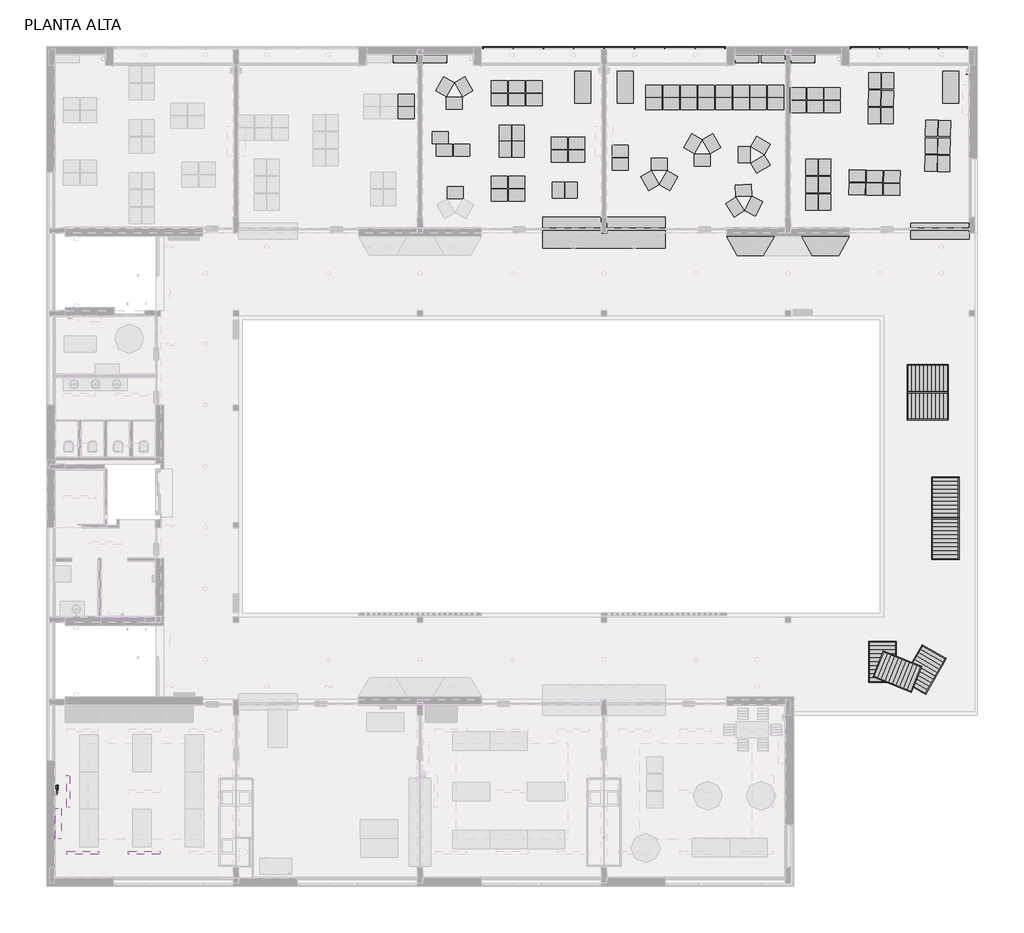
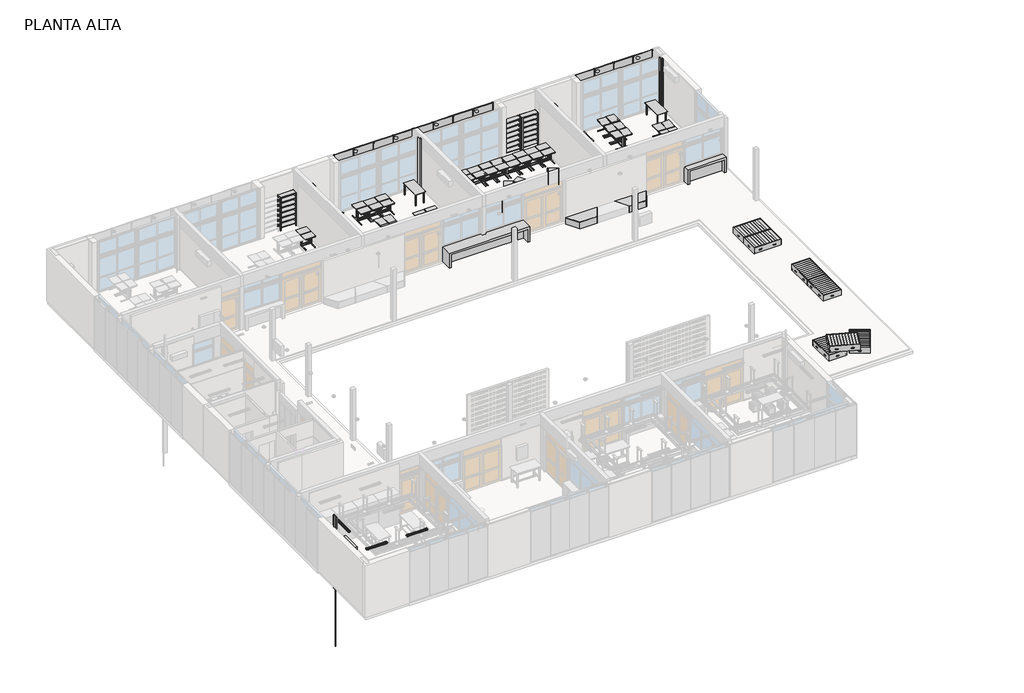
# One storey, part 11 of 14: 117 furniture elements, 7 pipe segments, 3 light fixtures, 3 pipe fittings, 1 proxy.
"""IFC4 building model written with IfcOpenShell, lengths in millimetres."""

from ifc_helpers import new_model, si_unit, point, frame, frame_2d, origin, place, context, project, spatial, circle_curve, trimmed, segment, composite_curve, outline, extrude, transform, mapped, element, save
from components import aa_unidad_interior_12_18_24_v2_24000btu_6bd6a99b, furniture_fee86474, furniture_102ea485, furniture_b328b4e4, furniture_937832ed, furniture_bc23b5bf, furniture_aca7c88c, furniture_7bc934b7, furniture_ed805c17, furniture_2b1f3197, furniture_b6be04e7, furniture_776c19b2, furniture_6d9eaf94, furniture_388dc08d, furniture_1ca492f6, l251_l251_78c3c87a, pipe_fitting_72b35c3b, m_codo_pvc_serie_40_57727813

model = new_model("IFC4")

# Units and contexts
model_context = context("Model", 3, world=origin())
ifc_project = project(units=[si_unit("LENGTHUNIT", "METRE", prefix="MILLI")], contexts=[model_context])

# Site, building, storey
site = spatial("IfcSite", under=ifc_project)
building = spatial("IfcBuilding", under=site)
storey = spatial("IfcBuildingStorey", under=building, Name="PLANTA ALTA", Elevation=3310.0)

# Proxy
placement = place(None, origin())
aa_unidad_interior_12_18_24_v2_24000btu_shape = aa_unidad_interior_12_18_24_v2_24000btu_6bd6a99b(model_context)
element("IfcBuildingElementProxy", 1, Name="AA Unidad interior 12-18-24 V2 : 24000BTU", ObjectType="AA Unidad interior 12-18-24 V2 : 24000BTU", at=placement, inside=storey, context=model_context, shape_type="MappedRepresentation", body=[
    mapped(aa_unidad_interior_12_18_24_v2_24000btu_shape, transform((3403.7173693, 2568.5637368, 6110.0), x_axis=(0.0, 1.0, 0.0), y_axis=(0.0, 0.0, 1.0), z_axis=(1.0, 0.0, 0.0))),
])

# Furniture
furniture_shape = furniture_fee86474(model_context)
element("IfcFurniture", 2, ObjectType="2.6 Mesa cuadrada 60x120 : 2.6 Mesa cuadrada 60x120", at=placement, inside=storey, context=model_context, shape_type="MappedRepresentation", body=[
    mapped(furniture_shape, transform((23188.6146227, 30211.8821589, 3310.0), x_axis=(0.0, -1.0, 0.0), y_axis=(1.0, 0.0, 0.0), z_axis=(0.0, 0.0, 1.0))),
])
element("IfcFurniture", 3, ObjectType="2.6 Mesa cuadrada 60x120 : 2.6 Mesa cuadrada 60x120", at=placement, inside=storey, context=model_context, shape_type="MappedRepresentation", body=[
    mapped(furniture_shape, transform((36988.6146227, 30211.8821589, 3310.0), x_axis=(0.0, -1.0, 0.0), y_axis=(1.0, 0.0, 0.0), z_axis=(0.0, 0.0, 1.0))),
])
furniture_2_shape = furniture_102ea485(model_context)
element("IfcFurniture", 4, ObjectType="4.6 Set de tarimas : 4.6 Set de tarimas", at=placement, inside=storey, context=model_context, shape_type="MappedRepresentation", body=[
    mapped(furniture_2_shape, transform((34440.0119752, 8631.0132244, 3310.0), x_axis=(1.0, 0.0, 0.0), y_axis=(0.0, 1.0, 0.0), z_axis=(0.0, 0.0, 1.0))),
])
element("IfcFurniture", 5, ObjectType="4.6 Set de tarimas : 4.6 Set de tarimas", at=placement, inside=storey, context=model_context, shape_type="MappedRepresentation", body=[
    mapped(furniture_2_shape, transform((35988.1937079, 8347.0837234, 3310.0), x_axis=(0.8660254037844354, -0.5000000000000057, 0.0), y_axis=(0.5000000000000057, 0.8660254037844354, 0.0), z_axis=(0.0, 0.0, 1.0))),
])
element("IfcFurniture", 6, ObjectType="4.6 Set de tarimas : 4.6 Set de tarimas", at=placement, inside=storey, context=model_context, shape_type="MappedRepresentation", body=[
    mapped(furniture_2_shape, transform((34996.9134234, 8269.6800312, 3660.0), x_axis=(0.37460659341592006, 0.9271838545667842, 0.0), y_axis=(-0.9271838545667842, 0.37460659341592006, 0.0), z_axis=(0.0, 0.0, 1.0))),
])
element("IfcFurniture", 7, ObjectType="4.6 Set de tarimas : 4.6 Set de tarimas", at=placement, inside=storey, context=model_context, shape_type="MappedRepresentation", body=[
    mapped(furniture_2_shape, transform((36794.2422036, 14805.2304035, 3310.0), x_axis=(1.0, 0.0, 0.0), y_axis=(0.0, 1.0, 0.0), z_axis=(0.0, 0.0, 1.0))),
])
element("IfcFurniture", 8, ObjectType="4.6 Set de tarimas : 4.6 Set de tarimas", at=placement, inside=storey, context=model_context, shape_type="MappedRepresentation", body=[
    mapped(furniture_2_shape, transform((36134.2422036, 19275.2304035, 3310.0), x_axis=(0.0, 1.0, 0.0), y_axis=(-1.0, 0.0, 0.0), z_axis=(0.0, 0.0, 1.0))),
])
element("IfcFurniture", 9, ObjectType="4.6 Set de tarimas : 4.6 Set de tarimas", at=placement, inside=storey, context=model_context, shape_type="MappedRepresentation", body=[
    mapped(furniture_2_shape, transform((36794.2422036, 13255.2304035, 3310.0), x_axis=(1.0, 0.0, 0.0), y_axis=(0.0, 1.0, 0.0), z_axis=(0.0, 0.0, 1.0))),
])
element("IfcFurniture", 10, ObjectType="4.6 Set de tarimas : 4.6 Set de tarimas", at=placement, inside=storey, context=model_context, shape_type="MappedRepresentation", body=[
    mapped(furniture_2_shape, transform((36134.2422036, 18237.5304035, 3310.0), x_axis=(0.0, 1.0, 0.0), y_axis=(-1.0, 0.0, 0.0), z_axis=(0.0, 0.0, 1.0))),
])
furniture_3_shape = furniture_b328b4e4(model_context)
element("IfcFurniture", 11, ObjectType="2.1 Mesa alumno : 2.1 Mesa alumno", at=placement, inside=storey, context=model_context, shape_type="MappedRepresentation", body=[
    mapped(furniture_3_shape, transform((16578.4848501, 29723.0969981, 3310.0), x_axis=(1.0, 0.0, 0.0), y_axis=(0.0, 1.0, 0.0), z_axis=(0.0, 0.0, 1.0))),
])
element("IfcFurniture", 12, ObjectType="2.1 Mesa alumno : 2.1 Mesa alumno", at=placement, inside=storey, context=model_context, shape_type="MappedRepresentation", body=[
    mapped(furniture_3_shape, transform((16578.4838965, 29238.2829284, 3310.0), x_axis=(-0.9999999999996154, 8.770485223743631e-07, 0.0), y_axis=(-8.770485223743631e-07, -0.9999999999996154, 0.0), z_axis=(0.0, 0.0, 1.0))),
])
element("IfcFurniture", 13, ObjectType="2.1 Mesa alumno : 2.1 Mesa alumno", at=placement, inside=storey, context=model_context, shape_type="MappedRepresentation", body=[
    mapped(furniture_3_shape, transform((18729.4443589, 30216.1938579, 3310.0), x_axis=(0.49999999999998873, -0.8660254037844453, 0.0), y_axis=(0.8660254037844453, 0.49999999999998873, 0.0), z_axis=(0.0, 0.0, 1.0))),
])
element("IfcFurniture", 14, ObjectType="2.1 Mesa alumno : 2.1 Mesa alumno", at=placement, inside=storey, context=model_context, shape_type="MappedRepresentation", body=[
    mapped(furniture_3_shape, transform((18031.8113262, 30218.3849675, 3310.0), x_axis=(0.5000000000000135, 0.8660254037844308, 0.0), y_axis=(-0.8660254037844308, 0.5000000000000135, 0.0), z_axis=(0.0, 0.0, 1.0))),
])
element("IfcFurniture", 15, ObjectType="2.1 Mesa alumno : 2.1 Mesa alumno", at=placement, inside=storey, context=model_context, shape_type="MappedRepresentation", body=[
    mapped(furniture_3_shape, transform((18381.5913909, 29608.0763013, 3310.0), x_axis=(-0.9999999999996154, 8.770485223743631e-07, 0.0), y_axis=(-8.770485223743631e-07, -0.9999999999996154, 0.0), z_axis=(0.0, 0.0, 1.0))),
])
element("IfcFurniture", 16, ObjectType="2.1 Mesa alumno : 2.1 Mesa alumno", at=placement, inside=storey, context=model_context, shape_type="MappedRepresentation", body=[
    mapped(furniture_3_shape, transform((18409.1082375, 26250.8944229, 3310.0), x_axis=(1.0, 0.0, 0.0), y_axis=(0.0, 1.0, 0.0), z_axis=(0.0, 0.0, 1.0))),
])
element("IfcFurniture", 17, ObjectType="2.1 Mesa alumno : 2.1 Mesa alumno", at=placement, inside=storey, context=model_context, shape_type="MappedRepresentation", body=[
    mapped(furniture_3_shape, transform((20063.1893816, 30228.3594979, 3310.0), x_axis=(1.0, 0.0, 0.0), y_axis=(0.0, 1.0, 0.0), z_axis=(0.0, 0.0, 1.0))),
])
element("IfcFurniture", 18, ObjectType="2.1 Mesa alumno : 2.1 Mesa alumno", at=placement, inside=storey, context=model_context, shape_type="MappedRepresentation", body=[
    mapped(furniture_3_shape, transform((20717.1336372, 30228.3594979, 3310.0), x_axis=(1.0, 0.0, 0.0), y_axis=(0.0, 1.0, 0.0), z_axis=(0.0, 0.0, 1.0))),
])
element("IfcFurniture", 19, ObjectType="2.1 Mesa alumno : 2.1 Mesa alumno", at=placement, inside=storey, context=model_context, shape_type="MappedRepresentation", body=[
    mapped(furniture_3_shape, transform((20717.1326836, 29743.5454283, 3310.0), x_axis=(-0.9999999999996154, 8.770485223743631e-07, 0.0), y_axis=(-8.770485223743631e-07, -0.9999999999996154, 0.0), z_axis=(0.0, 0.0, 1.0))),
])
element("IfcFurniture", 20, ObjectType="2.1 Mesa alumno : 2.1 Mesa alumno", at=placement, inside=storey, context=model_context, shape_type="MappedRepresentation", body=[
    mapped(furniture_3_shape, transform((20063.1884279, 29743.5454283, 3310.0), x_axis=(-1.0, 0.0, 0.0), y_axis=(0.0, -1.0, 0.0), z_axis=(0.0, 0.0, 1.0))),
])
element("IfcFurniture", 21, ObjectType="2.1 Mesa alumno : 2.1 Mesa alumno", at=placement, inside=storey, context=model_context, shape_type="MappedRepresentation", body=[
    mapped(furniture_3_shape, transform((18651.0092465, 27836.187759, 3310.0), x_axis=(-0.9999999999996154, 8.770485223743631e-07, 0.0), y_axis=(-8.770485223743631e-07, -0.9999999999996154, 0.0), z_axis=(0.0, 0.0, 1.0))),
])
element("IfcFurniture", 22, ObjectType="2.1 Mesa alumno : 2.1 Mesa alumno", at=placement, inside=storey, context=model_context, shape_type="MappedRepresentation", body=[
    mapped(furniture_3_shape, transform((17997.0649908, 27836.187759, 3310.0), x_axis=(-1.0, 0.0, 0.0), y_axis=(0.0, -1.0, 0.0), z_axis=(0.0, 0.0, 1.0))),
])
element("IfcFurniture", 23, ObjectType="2.1 Mesa alumno : 2.1 Mesa alumno", at=placement, inside=storey, context=model_context, shape_type="MappedRepresentation", body=[
    mapped(furniture_3_shape, transform((22312.5797162, 28097.7498325, 3310.0), x_axis=(1.0, 0.0, 0.0), y_axis=(0.0, 1.0, 0.0), z_axis=(0.0, 0.0, 1.0))),
])
element("IfcFurniture", 24, ObjectType="2.1 Mesa alumno : 2.1 Mesa alumno", at=placement, inside=storey, context=model_context, shape_type="MappedRepresentation", body=[
    mapped(furniture_3_shape, transform((22966.5239718, 28097.7498325, 3310.0), x_axis=(1.0, 0.0, 0.0), y_axis=(0.0, 1.0, 0.0), z_axis=(0.0, 0.0, 1.0))),
])
element("IfcFurniture", 25, ObjectType="2.1 Mesa alumno : 2.1 Mesa alumno", at=placement, inside=storey, context=model_context, shape_type="MappedRepresentation", body=[
    mapped(furniture_3_shape, transform((22966.5230182, 27612.9357629, 3310.0), x_axis=(-0.9999999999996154, 8.770485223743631e-07, 0.0), y_axis=(-8.770485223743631e-07, -0.9999999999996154, 0.0), z_axis=(0.0, 0.0, 1.0))),
])
element("IfcFurniture", 26, ObjectType="2.1 Mesa alumno : 2.1 Mesa alumno", at=placement, inside=storey, context=model_context, shape_type="MappedRepresentation", body=[
    mapped(furniture_3_shape, transform((22312.5787625, 27612.9357629, 3310.0), x_axis=(-1.0, 0.0, 0.0), y_axis=(0.0, -1.0, 0.0), z_axis=(0.0, 0.0, 1.0))),
])
element("IfcFurniture", 27, ObjectType="2.1 Mesa alumno : 2.1 Mesa alumno", at=placement, inside=storey, context=model_context, shape_type="MappedRepresentation", body=[
    mapped(furniture_3_shape, transform((26515.0518356, 30060.6599885, 3310.0), x_axis=(1.0, 0.0, 0.0), y_axis=(0.0, 1.0, 0.0), z_axis=(0.0, 0.0, 1.0))),
])
element("IfcFurniture", 28, ObjectType="2.1 Mesa alumno : 2.1 Mesa alumno", at=placement, inside=storey, context=model_context, shape_type="MappedRepresentation", body=[
    mapped(furniture_3_shape, transform((27168.9960913, 30060.6599885, 3310.0), x_axis=(1.0, 0.0, 0.0), y_axis=(0.0, 1.0, 0.0), z_axis=(0.0, 0.0, 1.0))),
])
element("IfcFurniture", 29, ObjectType="2.1 Mesa alumno : 2.1 Mesa alumno", at=placement, inside=storey, context=model_context, shape_type="MappedRepresentation", body=[
    mapped(furniture_3_shape, transform((27168.9951376, 29575.8459189, 3310.0), x_axis=(-0.9999999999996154, 8.770485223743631e-07, 0.0), y_axis=(-8.770485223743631e-07, -0.9999999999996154, 0.0), z_axis=(0.0, 0.0, 1.0))),
])
element("IfcFurniture", 30, ObjectType="2.1 Mesa alumno : 2.1 Mesa alumno", at=placement, inside=storey, context=model_context, shape_type="MappedRepresentation", body=[
    mapped(furniture_3_shape, transform((26515.050882, 29575.8459189, 3310.0), x_axis=(-1.0, 0.0, 0.0), y_axis=(0.0, -1.0, 0.0), z_axis=(0.0, 0.0, 1.0))),
])
element("IfcFurniture", 31, ObjectType="2.1 Mesa alumno : 2.1 Mesa alumno", at=placement, inside=storey, context=model_context, shape_type="MappedRepresentation", body=[
    mapped(furniture_3_shape, transform((27822.9403469, 30060.6599885, 3310.0), x_axis=(1.0, 0.0, 0.0), y_axis=(0.0, 1.0, 0.0), z_axis=(0.0, 0.0, 1.0))),
])
element("IfcFurniture", 32, ObjectType="2.1 Mesa alumno : 2.1 Mesa alumno", at=placement, inside=storey, context=model_context, shape_type="MappedRepresentation", body=[
    mapped(furniture_3_shape, transform((27822.9393933, 29575.8459189, 3310.0), x_axis=(-0.9999999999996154, 8.770485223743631e-07, 0.0), y_axis=(-8.770485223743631e-07, -0.9999999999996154, 0.0), z_axis=(0.0, 0.0, 1.0))),
])
element("IfcFurniture", 33, ObjectType="2.1 Mesa alumno : 2.1 Mesa alumno", at=placement, inside=storey, context=model_context, shape_type="MappedRepresentation", body=[
    mapped(furniture_3_shape, transform((28476.8846025, 30060.6599885, 3310.0), x_axis=(1.0, 0.0, 0.0), y_axis=(0.0, 1.0, 0.0), z_axis=(0.0, 0.0, 1.0))),
])
element("IfcFurniture", 34, ObjectType="2.1 Mesa alumno : 2.1 Mesa alumno", at=placement, inside=storey, context=model_context, shape_type="MappedRepresentation", body=[
    mapped(furniture_3_shape, transform((28476.8836489, 29575.8459189, 3310.0), x_axis=(-0.9999999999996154, 8.770485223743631e-07, 0.0), y_axis=(-8.770485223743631e-07, -0.9999999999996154, 0.0), z_axis=(0.0, 0.0, 1.0))),
])
element("IfcFurniture", 35, ObjectType="2.1 Mesa alumno : 2.1 Mesa alumno", at=placement, inside=storey, context=model_context, shape_type="MappedRepresentation", body=[
    mapped(furniture_3_shape, transform((29130.8288581, 30060.6599885, 3310.0), x_axis=(1.0, 0.0, 0.0), y_axis=(0.0, 1.0, 0.0), z_axis=(0.0, 0.0, 1.0))),
])
element("IfcFurniture", 36, ObjectType="2.1 Mesa alumno : 2.1 Mesa alumno", at=placement, inside=storey, context=model_context, shape_type="MappedRepresentation", body=[
    mapped(furniture_3_shape, transform((29130.8279045, 29575.8459189, 3310.0), x_axis=(-0.9999999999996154, 8.770485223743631e-07, 0.0), y_axis=(-8.770485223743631e-07, -0.9999999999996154, 0.0), z_axis=(0.0, 0.0, 1.0))),
])
element("IfcFurniture", 37, ObjectType="2.1 Mesa alumno : 2.1 Mesa alumno", at=placement, inside=storey, context=model_context, shape_type="MappedRepresentation", body=[
    mapped(furniture_3_shape, transform((29784.7731137, 30060.6599885, 3310.0), x_axis=(1.0, 0.0, 0.0), y_axis=(0.0, 1.0, 0.0), z_axis=(0.0, 0.0, 1.0))),
])
element("IfcFurniture", 38, ObjectType="2.1 Mesa alumno : 2.1 Mesa alumno", at=placement, inside=storey, context=model_context, shape_type="MappedRepresentation", body=[
    mapped(furniture_3_shape, transform((29784.7721601, 29575.8459189, 3310.0), x_axis=(-0.9999999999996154, 8.770485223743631e-07, 0.0), y_axis=(-8.770485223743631e-07, -0.9999999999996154, 0.0), z_axis=(0.0, 0.0, 1.0))),
])
element("IfcFurniture", 39, ObjectType="2.1 Mesa alumno : 2.1 Mesa alumno", at=placement, inside=storey, context=model_context, shape_type="MappedRepresentation", body=[
    mapped(furniture_3_shape, transform((30438.7173693, 30060.6599885, 3310.0), x_axis=(1.0, 0.0, 0.0), y_axis=(0.0, 1.0, 0.0), z_axis=(0.0, 0.0, 1.0))),
])
element("IfcFurniture", 40, ObjectType="2.1 Mesa alumno : 2.1 Mesa alumno", at=placement, inside=storey, context=model_context, shape_type="MappedRepresentation", body=[
    mapped(furniture_3_shape, transform((30438.7164157, 29575.8459189, 3310.0), x_axis=(-0.9999999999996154, 8.770485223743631e-07, 0.0), y_axis=(-8.770485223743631e-07, -0.9999999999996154, 0.0), z_axis=(0.0, 0.0, 1.0))),
])
element("IfcFurniture", 41, ObjectType="2.1 Mesa alumno : 2.1 Mesa alumno", at=placement, inside=storey, context=model_context, shape_type="MappedRepresentation", body=[
    mapped(furniture_3_shape, transform((25855.0518356, 30060.6599885, 3310.0), x_axis=(1.0, 0.0, 0.0), y_axis=(0.0, 1.0, 0.0), z_axis=(0.0, 0.0, 1.0))),
])
element("IfcFurniture", 42, ObjectType="2.1 Mesa alumno : 2.1 Mesa alumno", at=placement, inside=storey, context=model_context, shape_type="MappedRepresentation", body=[
    mapped(furniture_3_shape, transform((25855.050882, 29575.8459189, 3310.0), x_axis=(-1.0, 0.0, 0.0), y_axis=(0.0, -1.0, 0.0), z_axis=(0.0, 0.0, 1.0))),
])
element("IfcFurniture", 43, ObjectType="2.1 Mesa alumno : 2.1 Mesa alumno", at=placement, inside=storey, context=model_context, shape_type="MappedRepresentation", body=[
    mapped(furniture_3_shape, transform((29859.7791331, 27314.8007215, 3310.0), x_axis=(-0.866025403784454, -0.4999999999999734, 0.0), y_axis=(0.4999999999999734, -0.866025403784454, 0.0), z_axis=(0.0, 0.0, 1.0))),
])
element("IfcFurniture", 44, ObjectType="2.1 Mesa alumno : 2.1 Mesa alumno", at=placement, inside=storey, context=model_context, shape_type="MappedRepresentation", body=[
    mapped(furniture_3_shape, transform((29861.9702427, 28012.4337543, 3310.0), x_axis=(0.866025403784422, -0.5000000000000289, 0.0), y_axis=(0.5000000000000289, 0.866025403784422, 0.0), z_axis=(0.0, 0.0, 1.0))),
])
element("IfcFurniture", 45, ObjectType="2.1 Mesa alumno : 2.1 Mesa alumno", at=placement, inside=storey, context=model_context, shape_type="MappedRepresentation", body=[
    mapped(furniture_3_shape, transform((29251.6615765, 27662.6536895, 3310.0), x_axis=(8.770485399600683e-07, 0.9999999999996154, 0.0), y_axis=(-0.9999999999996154, 8.770485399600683e-07, 0.0), z_axis=(0.0, 0.0, 1.0))),
])
element("IfcFurniture", 46, ObjectType="2.1 Mesa alumno : 2.1 Mesa alumno", at=placement, inside=storey, context=model_context, shape_type="MappedRepresentation", body=[
    mapped(furniture_3_shape, transform((29604.0059668, 25741.2533634, 3310.0), x_axis=(-0.45399049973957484, -0.8910065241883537, 0.0), y_axis=(0.8910065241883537, -0.45399049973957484, 0.0), z_axis=(0.0, 0.0, 1.0))),
])
element("IfcFurniture", 47, ObjectType="2.1 Mesa alumno : 2.1 Mesa alumno", at=placement, inside=storey, context=model_context, shape_type="MappedRepresentation", body=[
    mapped(furniture_3_shape, transform((29225.8854042, 26327.531019, 3310.0), x_axis=(0.9986295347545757, 0.052335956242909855, 0.0), y_axis=(-0.052335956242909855, 0.9986295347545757, 0.0), z_axis=(0.0, 0.0, 1.0))),
])
element("IfcFurniture", 48, ObjectType="2.1 Mesa alumno : 2.1 Mesa alumno", at=placement, inside=storey, context=model_context, shape_type="MappedRepresentation", body=[
    mapped(furniture_3_shape, transform((28904.5413655, 25701.7828504, 3310.0), x_axis=(-0.5446382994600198, 0.8386710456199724, 0.0), y_axis=(-0.8386710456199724, -0.5446382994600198, 0.0), z_axis=(0.0, 0.0, 1.0))),
])
element("IfcFurniture", 49, ObjectType="2.1 Mesa alumno : 2.1 Mesa alumno", at=placement, inside=storey, context=model_context, shape_type="MappedRepresentation", body=[
    mapped(furniture_3_shape, transform((28024.6180628, 28082.3121153, 3310.0), x_axis=(0.49999999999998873, -0.8660254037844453, 0.0), y_axis=(0.8660254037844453, 0.49999999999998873, 0.0), z_axis=(0.0, 0.0, 1.0))),
])
element("IfcFurniture", 50, ObjectType="2.1 Mesa alumno : 2.1 Mesa alumno", at=placement, inside=storey, context=model_context, shape_type="MappedRepresentation", body=[
    mapped(furniture_3_shape, transform((27326.9850301, 28084.5032248, 3310.0), x_axis=(0.5000000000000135, 0.8660254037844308, 0.0), y_axis=(-0.8660254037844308, 0.5000000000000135, 0.0), z_axis=(0.0, 0.0, 1.0))),
])
element("IfcFurniture", 51, ObjectType="2.1 Mesa alumno : 2.1 Mesa alumno", at=placement, inside=storey, context=model_context, shape_type="MappedRepresentation", body=[
    mapped(furniture_3_shape, transform((27676.7650948, 27474.1945587, 3310.0), x_axis=(-0.9999999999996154, 8.770485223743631e-07, 0.0), y_axis=(-8.770485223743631e-07, -0.9999999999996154, 0.0), z_axis=(0.0, 0.0, 1.0))),
])
element("IfcFurniture", 52, ObjectType="2.1 Mesa alumno : 2.1 Mesa alumno", at=placement, inside=storey, context=model_context, shape_type="MappedRepresentation", body=[
    mapped(furniture_3_shape, transform((26411.31691, 26701.7572622, 3310.0), x_axis=(-0.5000000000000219, -0.8660254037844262, 0.0), y_axis=(0.8660254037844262, -0.5000000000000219, 0.0), z_axis=(0.0, 0.0, 1.0))),
])
element("IfcFurniture", 53, ObjectType="2.1 Mesa alumno : 2.1 Mesa alumno", at=placement, inside=storey, context=model_context, shape_type="MappedRepresentation", body=[
    mapped(furniture_3_shape, transform((26064.3979502, 27307.0207458, 3310.0), x_axis=(1.0, 0.0, 0.0), y_axis=(0.0, 1.0, 0.0), z_axis=(0.0, 0.0, 1.0))),
])
element("IfcFurniture", 54, ObjectType="2.1 Mesa alumno : 2.1 Mesa alumno", at=placement, inside=storey, context=model_context, shape_type="MappedRepresentation", body=[
    mapped(furniture_3_shape, transform((25710.7451736, 26698.9479909, 3310.0), x_axis=(-0.49999924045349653, 0.8660258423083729, 0.0), y_axis=(-0.8660258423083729, -0.49999924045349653, 0.0), z_axis=(0.0, 0.0, 1.0))),
])
element("IfcFurniture", 55, ObjectType="2.1 Mesa alumno : 2.1 Mesa alumno", at=placement, inside=storey, context=model_context, shape_type="MappedRepresentation", body=[
    mapped(furniture_3_shape, transform((20063.1893816, 26638.4667367, 3310.0), x_axis=(1.0, 0.0, 0.0), y_axis=(0.0, 1.0, 0.0), z_axis=(0.0, 0.0, 1.0))),
])
element("IfcFurniture", 56, ObjectType="2.1 Mesa alumno : 2.1 Mesa alumno", at=placement, inside=storey, context=model_context, shape_type="MappedRepresentation", body=[
    mapped(furniture_3_shape, transform((20717.1336372, 26638.4667367, 3310.0), x_axis=(1.0, 0.0, 0.0), y_axis=(0.0, 1.0, 0.0), z_axis=(0.0, 0.0, 1.0))),
])
element("IfcFurniture", 57, ObjectType="2.1 Mesa alumno : 2.1 Mesa alumno", at=placement, inside=storey, context=model_context, shape_type="MappedRepresentation", body=[
    mapped(furniture_3_shape, transform((20717.1326836, 26153.652667, 3310.0), x_axis=(-0.9999999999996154, 8.770485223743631e-07, 0.0), y_axis=(-8.770485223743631e-07, -0.9999999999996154, 0.0), z_axis=(0.0, 0.0, 1.0))),
])
element("IfcFurniture", 58, ObjectType="2.1 Mesa alumno : 2.1 Mesa alumno", at=placement, inside=storey, context=model_context, shape_type="MappedRepresentation", body=[
    mapped(furniture_3_shape, transform((20063.1884279, 26153.652667, 3310.0), x_axis=(-1.0, 0.0, 0.0), y_axis=(0.0, -1.0, 0.0), z_axis=(0.0, 0.0, 1.0))),
])
element("IfcFurniture", 59, ObjectType="2.1 Mesa alumno : 2.1 Mesa alumno", at=placement, inside=storey, context=model_context, shape_type="MappedRepresentation", body=[
    mapped(furniture_3_shape, transform((20283.6040294, 27882.1439391, 3310.0), x_axis=(0.0, 1.0, 0.0), y_axis=(-1.0, 0.0, 0.0), z_axis=(0.0, 0.0, 1.0))),
])
element("IfcFurniture", 60, ObjectType="2.1 Mesa alumno : 2.1 Mesa alumno", at=placement, inside=storey, context=model_context, shape_type="MappedRepresentation", body=[
    mapped(furniture_3_shape, transform((20768.418099, 27882.1429855, 3310.0), x_axis=(-8.770485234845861e-07, -0.9999999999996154, 0.0), y_axis=(0.9999999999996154, -8.770485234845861e-07, 0.0), z_axis=(0.0, 0.0, 1.0))),
])
element("IfcFurniture", 61, ObjectType="2.1 Mesa alumno : 2.1 Mesa alumno", at=placement, inside=storey, context=model_context, shape_type="MappedRepresentation", body=[
    mapped(furniture_3_shape, transform((34132.3121685, 26375.4313148, 3310.0), x_axis=(-0.9998581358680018, 0.016843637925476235, 0.0), y_axis=(-0.016843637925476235, -0.9998581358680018, 0.0), z_axis=(0.0, 0.0, 1.0))),
])
element("IfcFurniture", 62, ObjectType="2.1 Mesa alumno : 2.1 Mesa alumno", at=placement, inside=storey, context=model_context, shape_type="MappedRepresentation", body=[
    mapped(furniture_3_shape, transform((33478.4606841, 26386.4461151, 3310.0), x_axis=(-0.9998581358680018, 0.016843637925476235, 0.0), y_axis=(-0.016843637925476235, -0.9998581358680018, 0.0), z_axis=(0.0, 0.0, 1.0))),
])
element("IfcFurniture", 63, ObjectType="2.1 Mesa alumno : 2.1 Mesa alumno", at=placement, inside=storey, context=model_context, shape_type="MappedRepresentation", body=[
    mapped(furniture_3_shape, transform((33486.6276703, 26871.1913909, 3310.0), x_axis=(0.9998581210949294, -0.016844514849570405, 0.0), y_axis=(0.016844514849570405, 0.9998581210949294, 0.0), z_axis=(0.0, 0.0, 1.0))),
])
element("IfcFurniture", 64, ObjectType="2.1 Mesa alumno : 2.1 Mesa alumno", at=placement, inside=storey, context=model_context, shape_type="MappedRepresentation", body=[
    mapped(furniture_3_shape, transform((34140.4791547, 26860.1765906, 3310.0), x_axis=(0.9998581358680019, -0.016843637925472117, 0.0), y_axis=(0.016843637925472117, 0.9998581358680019, 0.0), z_axis=(0.0, 0.0, 1.0))),
])
element("IfcFurniture", 65, ObjectType="2.1 Mesa alumno : 2.1 Mesa alumno", at=placement, inside=storey, context=model_context, shape_type="MappedRepresentation", body=[
    mapped(furniture_3_shape, transform((34786.1636529, 26364.4165145, 3310.0), x_axis=(-0.9998581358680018, 0.016843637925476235, 0.0), y_axis=(-0.016843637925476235, -0.9998581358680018, 0.0), z_axis=(0.0, 0.0, 1.0))),
])
element("IfcFurniture", 66, ObjectType="2.1 Mesa alumno : 2.1 Mesa alumno", at=placement, inside=storey, context=model_context, shape_type="MappedRepresentation", body=[
    mapped(furniture_3_shape, transform((34794.3306391, 26849.1617903, 3310.0), x_axis=(0.9998581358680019, -0.016843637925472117, 0.0), y_axis=(0.016843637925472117, 0.9998581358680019, 0.0), z_axis=(0.0, 0.0, 1.0))),
])
element("IfcFurniture", 67, ObjectType="2.1 Mesa alumno : 2.1 Mesa alumno", at=placement, inside=storey, context=model_context, shape_type="MappedRepresentation", body=[
    mapped(furniture_3_shape, transform((34623.0529164, 29784.4945884, 3310.0), x_axis=(-0.016843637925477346, -0.9998581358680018, 0.0), y_axis=(0.9998581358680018, -0.016843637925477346, 0.0), z_axis=(0.0, 0.0, 1.0))),
])
element("IfcFurniture", 68, ObjectType="2.1 Mesa alumno : 2.1 Mesa alumno", at=placement, inside=storey, context=model_context, shape_type="MappedRepresentation", body=[
    mapped(furniture_3_shape, transform((34612.0381161, 29130.6431041, 3310.0), x_axis=(-0.016843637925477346, -0.9998581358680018, 0.0), y_axis=(0.9998581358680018, -0.016843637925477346, 0.0), z_axis=(0.0, 0.0, 1.0))),
])
element("IfcFurniture", 69, ObjectType="2.1 Mesa alumno : 2.1 Mesa alumno", at=placement, inside=storey, context=model_context, shape_type="MappedRepresentation", body=[
    mapped(furniture_3_shape, transform((34127.2928403, 29138.8100902, 3310.0), x_axis=(0.016844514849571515, 0.9998581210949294, 0.0), y_axis=(-0.9998581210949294, 0.016844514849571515, 0.0), z_axis=(0.0, 0.0, 1.0))),
])
element("IfcFurniture", 70, ObjectType="2.1 Mesa alumno : 2.1 Mesa alumno", at=placement, inside=storey, context=model_context, shape_type="MappedRepresentation", body=[
    mapped(furniture_3_shape, transform((34138.3076406, 29792.6615746, 3310.0), x_axis=(0.016843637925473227, 0.9998581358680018, 0.0), y_axis=(-0.9998581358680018, 0.016843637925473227, 0.0), z_axis=(0.0, 0.0, 1.0))),
])
element("IfcFurniture", 71, ObjectType="2.1 Mesa alumno : 2.1 Mesa alumno", at=placement, inside=storey, context=model_context, shape_type="MappedRepresentation", body=[
    mapped(furniture_3_shape, transform((34634.1697174, 30444.4009581, 3310.0), x_axis=(-0.016843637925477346, -0.9998581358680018, 0.0), y_axis=(0.9998581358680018, -0.016843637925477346, 0.0), z_axis=(0.0, 0.0, 1.0))),
])
element("IfcFurniture", 72, ObjectType="2.1 Mesa alumno : 2.1 Mesa alumno", at=placement, inside=storey, context=model_context, shape_type="MappedRepresentation", body=[
    mapped(furniture_3_shape, transform((34149.4244416, 30452.5679443, 3310.0), x_axis=(0.016843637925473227, 0.9998581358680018, 0.0), y_axis=(-0.9998581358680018, 0.016843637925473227, 0.0), z_axis=(0.0, 0.0, 1.0))),
])
element("IfcFurniture", 73, ObjectType="2.1 Mesa alumno : 2.1 Mesa alumno", at=placement, inside=storey, context=model_context, shape_type="MappedRepresentation", body=[
    mapped(furniture_3_shape, transform((31791.2904926, 26546.2514887, 3310.0), x_axis=(0.0, 1.0, 0.0), y_axis=(-1.0, 0.0, 0.0), z_axis=(0.0, 0.0, 1.0))),
])
element("IfcFurniture", 74, ObjectType="2.1 Mesa alumno : 2.1 Mesa alumno", at=placement, inside=storey, context=model_context, shape_type="MappedRepresentation", body=[
    mapped(furniture_3_shape, transform((31791.2904926, 27200.1957444, 3310.0), x_axis=(0.0, 1.0, 0.0), y_axis=(-1.0, 0.0, 0.0), z_axis=(0.0, 0.0, 1.0))),
])
element("IfcFurniture", 75, ObjectType="2.1 Mesa alumno : 2.1 Mesa alumno", at=placement, inside=storey, context=model_context, shape_type="MappedRepresentation", body=[
    mapped(furniture_3_shape, transform((32276.1045622, 27200.1947907, 3310.0), x_axis=(-8.770485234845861e-07, -0.9999999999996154, 0.0), y_axis=(0.9999999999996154, -8.770485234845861e-07, 0.0), z_axis=(0.0, 0.0, 1.0))),
])
element("IfcFurniture", 76, ObjectType="2.1 Mesa alumno : 2.1 Mesa alumno", at=placement, inside=storey, context=model_context, shape_type="MappedRepresentation", body=[
    mapped(furniture_3_shape, transform((32276.1045622, 26546.2505351, 3310.0), x_axis=(0.0, -1.0, 0.0), y_axis=(1.0, 0.0, 0.0), z_axis=(0.0, 0.0, 1.0))),
])
element("IfcFurniture", 77, ObjectType="2.1 Mesa alumno : 2.1 Mesa alumno", at=placement, inside=storey, context=model_context, shape_type="MappedRepresentation", body=[
    mapped(furniture_3_shape, transform((31791.2904926, 25886.2514887, 3310.0), x_axis=(0.0, 1.0, 0.0), y_axis=(-1.0, 0.0, 0.0), z_axis=(0.0, 0.0, 1.0))),
])
element("IfcFurniture", 78, ObjectType="2.1 Mesa alumno : 2.1 Mesa alumno", at=placement, inside=storey, context=model_context, shape_type="MappedRepresentation", body=[
    mapped(furniture_3_shape, transform((32276.1045622, 25886.2505351, 3310.0), x_axis=(0.0, -1.0, 0.0), y_axis=(1.0, 0.0, 0.0), z_axis=(0.0, 0.0, 1.0))),
])
element("IfcFurniture", 79, ObjectType="2.1 Mesa alumno : 2.1 Mesa alumno", at=placement, inside=storey, context=model_context, shape_type="MappedRepresentation", body=[
    mapped(furniture_3_shape, transform((36747.1888042, 27992.9650757, 3310.0), x_axis=(-0.016843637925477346, -0.9998581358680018, 0.0), y_axis=(0.9998581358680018, -0.016843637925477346, 0.0), z_axis=(0.0, 0.0, 1.0))),
])
element("IfcFurniture", 80, ObjectType="2.1 Mesa alumno : 2.1 Mesa alumno", at=placement, inside=storey, context=model_context, shape_type="MappedRepresentation", body=[
    mapped(furniture_3_shape, transform((36736.174004, 27339.1135913, 3310.0), x_axis=(-0.016843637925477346, -0.9998581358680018, 0.0), y_axis=(0.9998581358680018, -0.016843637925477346, 0.0), z_axis=(0.0, 0.0, 1.0))),
])
element("IfcFurniture", 81, ObjectType="2.1 Mesa alumno : 2.1 Mesa alumno", at=placement, inside=storey, context=model_context, shape_type="MappedRepresentation", body=[
    mapped(furniture_3_shape, transform((36251.4287282, 27347.2805774, 3310.0), x_axis=(0.016844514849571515, 0.9998581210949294, 0.0), y_axis=(-0.9998581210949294, 0.016844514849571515, 0.0), z_axis=(0.0, 0.0, 1.0))),
])
element("IfcFurniture", 82, ObjectType="2.1 Mesa alumno : 2.1 Mesa alumno", at=placement, inside=storey, context=model_context, shape_type="MappedRepresentation", body=[
    mapped(furniture_3_shape, transform((36262.4435284, 28001.1320619, 3310.0), x_axis=(0.016843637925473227, 0.9998581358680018, 0.0), y_axis=(-0.9998581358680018, 0.016843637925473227, 0.0), z_axis=(0.0, 0.0, 1.0))),
])
element("IfcFurniture", 83, ObjectType="2.1 Mesa alumno : 2.1 Mesa alumno", at=placement, inside=storey, context=model_context, shape_type="MappedRepresentation", body=[
    mapped(furniture_3_shape, transform((36758.3056053, 28652.8714454, 3310.0), x_axis=(-0.016843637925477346, -0.9998581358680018, 0.0), y_axis=(0.9998581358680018, -0.016843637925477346, 0.0), z_axis=(0.0, 0.0, 1.0))),
])
element("IfcFurniture", 84, ObjectType="2.1 Mesa alumno : 2.1 Mesa alumno", at=placement, inside=storey, context=model_context, shape_type="MappedRepresentation", body=[
    mapped(furniture_3_shape, transform((36273.5603295, 28661.0384316, 3310.0), x_axis=(0.016843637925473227, 0.9998581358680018, 0.0), y_axis=(-0.9998581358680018, 0.016843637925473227, 0.0), z_axis=(0.0, 0.0, 1.0))),
])
element("IfcFurniture", 85, ObjectType="2.1 Mesa alumno : 2.1 Mesa alumno", at=placement, inside=storey, context=model_context, shape_type="MappedRepresentation", body=[
    mapped(furniture_3_shape, transform((24600.0599716, 27793.6331359, 3310.0), x_axis=(1.0, 0.0, 0.0), y_axis=(0.0, 1.0, 0.0), z_axis=(0.0, 0.0, 1.0))),
])
element("IfcFurniture", 86, ObjectType="2.1 Mesa alumno : 2.1 Mesa alumno", at=placement, inside=storey, context=model_context, shape_type="MappedRepresentation", body=[
    mapped(furniture_3_shape, transform((24600.059018, 27308.8190662, 3310.0), x_axis=(-1.0, 0.0, 0.0), y_axis=(0.0, -1.0, 0.0), z_axis=(0.0, 0.0, 1.0))),
])
element("IfcFurniture", 87, ObjectType="2.1 Mesa alumno : 2.1 Mesa alumno", at=placement, inside=storey, context=model_context, shape_type="MappedRepresentation", body=[
    mapped(furniture_3_shape, transform((20283.6040294, 28482.1439391, 3310.0), x_axis=(0.0, 1.0, 0.0), y_axis=(-1.0, 0.0, 0.0), z_axis=(0.0, 0.0, 1.0))),
])
element("IfcFurniture", 88, ObjectType="2.1 Mesa alumno : 2.1 Mesa alumno", at=placement, inside=storey, context=model_context, shape_type="MappedRepresentation", body=[
    mapped(furniture_3_shape, transform((20768.418099, 28482.1429855, 3310.0), x_axis=(-8.770485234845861e-07, -0.9999999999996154, 0.0), y_axis=(0.9999999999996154, -8.770485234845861e-07, 0.0), z_axis=(0.0, 0.0, 1.0))),
])
element("IfcFurniture", 89, ObjectType="2.1 Mesa alumno : 2.1 Mesa alumno", at=placement, inside=storey, context=model_context, shape_type="MappedRepresentation", body=[
    mapped(furniture_3_shape, transform((22275.3195815, 26330.8961539, 3310.0), x_axis=(0.0, 1.0, 0.0), y_axis=(-1.0, 0.0, 0.0), z_axis=(0.0, 0.0, 1.0))),
])
element("IfcFurniture", 90, ObjectType="2.1 Mesa alumno : 2.1 Mesa alumno", at=placement, inside=storey, context=model_context, shape_type="MappedRepresentation", body=[
    mapped(furniture_3_shape, transform((22760.1336511, 26330.8952003, 3310.0), x_axis=(-8.770485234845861e-07, -0.9999999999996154, 0.0), y_axis=(0.9999999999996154, -8.770485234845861e-07, 0.0), z_axis=(0.0, 0.0, 1.0))),
])
element("IfcFurniture", 91, ObjectType="2.1 Mesa alumno : 2.1 Mesa alumno", at=placement, inside=storey, context=model_context, shape_type="MappedRepresentation", body=[
    mapped(furniture_3_shape, transform((21371.0778928, 30228.3594979, 3310.0), x_axis=(1.0, 0.0, 0.0), y_axis=(0.0, 1.0, 0.0), z_axis=(0.0, 0.0, 1.0))),
])
element("IfcFurniture", 92, ObjectType="2.1 Mesa alumno : 2.1 Mesa alumno", at=placement, inside=storey, context=model_context, shape_type="MappedRepresentation", body=[
    mapped(furniture_3_shape, transform((21371.0769392, 29743.5454283, 3310.0), x_axis=(-0.9999999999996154, 8.770485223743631e-07, 0.0), y_axis=(-8.770485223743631e-07, -0.9999999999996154, 0.0), z_axis=(0.0, 0.0, 1.0))),
])
element("IfcFurniture", 93, ObjectType="2.1 Mesa alumno : 2.1 Mesa alumno", at=placement, inside=storey, context=model_context, shape_type="MappedRepresentation", body=[
    mapped(furniture_3_shape, transform((17838.7173693, 28305.1706538, 3310.0), x_axis=(1.0, 0.0, 0.0), y_axis=(0.0, 1.0, 0.0), z_axis=(0.0, 0.0, 1.0))),
])
furniture_4_shape = furniture_937832ed(model_context)
element("IfcFurniture", 94, ObjectType="2.1 Mesa alumno : 2.1 Mesa alumno", at=placement, inside=storey, context=model_context, shape_type="MappedRepresentation", body=[
    mapped(furniture_4_shape, transform((31906.9958958, 29963.0969981, 3310.0), x_axis=(-1.0, 0.0, 0.0), y_axis=(0.0, -1.0, 0.0), z_axis=(0.0, 0.0, 1.0))),
])
element("IfcFurniture", 95, ObjectType="2.1 Mesa alumno : 2.1 Mesa alumno", at=placement, inside=storey, context=model_context, shape_type="MappedRepresentation", body=[
    mapped(furniture_4_shape, transform((31253.0516402, 29963.0969981, 3310.0), x_axis=(-1.0, 0.0, 0.0), y_axis=(0.0, -1.0, 0.0), z_axis=(0.0, 0.0, 1.0))),
])
element("IfcFurniture", 96, ObjectType="2.1 Mesa alumno : 2.1 Mesa alumno", at=placement, inside=storey, context=model_context, shape_type="MappedRepresentation", body=[
    mapped(furniture_4_shape, transform((31906.9968495, 29478.2829284, 3310.0), x_axis=(1.0, 0.0, 0.0), y_axis=(0.0, 1.0, 0.0), z_axis=(0.0, 0.0, 1.0))),
])
element("IfcFurniture", 97, ObjectType="2.1 Mesa alumno : 2.1 Mesa alumno", at=placement, inside=storey, context=model_context, shape_type="MappedRepresentation", body=[
    mapped(furniture_4_shape, transform((32560.9401514, 29963.0969981, 3310.0), x_axis=(-1.0, 0.0, 0.0), y_axis=(0.0, -1.0, 0.0), z_axis=(0.0, 0.0, 1.0))),
])
element("IfcFurniture", 98, ObjectType="2.1 Mesa alumno : 2.1 Mesa alumno", at=placement, inside=storey, context=model_context, shape_type="MappedRepresentation", body=[
    mapped(furniture_4_shape, transform((32560.9411051, 29478.2829284, 3310.0), x_axis=(1.0, 0.0, 0.0), y_axis=(0.0, 1.0, 0.0), z_axis=(0.0, 0.0, 1.0))),
])
element("IfcFurniture", 99, ObjectType="2.1 Mesa alumno : 2.1 Mesa alumno", at=placement, inside=storey, context=model_context, shape_type="MappedRepresentation", body=[
    mapped(furniture_4_shape, transform((31253.0525939, 29478.2829284, 3310.0), x_axis=(1.0, 0.0, 0.0), y_axis=(0.0, 1.0, 0.0), z_axis=(0.0, 0.0, 1.0))),
])
furniture_5_shape = furniture_bc23b5bf(model_context)
element("IfcFurniture", 100, ObjectType="H04 Protección 4 módulos : H4.3 Protección 4 módulos 465x315", at=placement, inside=storey, context=model_context, shape_type="MappedRepresentation", body=[
    mapped(furniture_5_shape, transform((21669.0170429, 31130.2304035, 3260.0), x_axis=(1.0, 0.0, 0.0), y_axis=(0.0, 1.0, 0.0), z_axis=(0.0, 0.0, 1.0))),
])
element("IfcFurniture", 101, ObjectType="H04 Protección 4 módulos : H4.3 Protección 4 módulos 465x315", at=placement, inside=storey, context=model_context, shape_type="MappedRepresentation", body=[
    mapped(furniture_5_shape, transform((26219.0170429, 31130.2304035, 3260.0), x_axis=(1.0, 0.0, 0.0), y_axis=(0.0, 1.0, 0.0), z_axis=(0.0, 0.0, 1.0))),
])
furniture_6_shape = furniture_aca7c88c(model_context)
element("IfcFurniture", 102, ObjectType="H04 Protección 4 módulos : H4.2 Protección 4 módulos 455x315", at=placement, inside=storey, context=model_context, shape_type="MappedRepresentation", body=[
    mapped(furniture_6_shape, transform((35384.0170429, 31130.2304035, 3260.0), x_axis=(1.0, 0.0, 0.0), y_axis=(0.0, 1.0, 0.0), z_axis=(0.0, 0.0, 1.0))),
])
furniture_7_shape = furniture_7bc934b7(model_context)
element("IfcFurniture", 103, ObjectType="C07 Mesa circulación doble : C07 Mesa circulación doble", at=placement, inside=storey, context=model_context, shape_type="MappedRepresentation", body=[
    mapped(furniture_7_shape, transform((23988.7173694, 24745.2304035, 3310.0), x_axis=(1.0, 0.0, 0.0), y_axis=(0.0, 1.0, 0.0), z_axis=(0.0, 0.0, 1.0))),
])
furniture_8_shape = furniture_ed805c17(model_context)
element("IfcFurniture", 104, ObjectType="C08 Mesa circulación simple : C08 Mesa circulación simple", at=placement, inside=storey, context=model_context, shape_type="MappedRepresentation", body=[
    mapped(furniture_8_shape, transform((36588.7173693, 24645.2304035, 3310.0), x_axis=(-1.0, 0.0, 0.0), y_axis=(0.0, -1.0, 0.0), z_axis=(0.0, 0.0, 1.0))),
])
furniture_9_shape = furniture_2b1f3197(model_context)
element("IfcFurniture", 105, ObjectType="C06 Asiento Trapecio : C06 Asiento Trapecio 180x40", at=placement, inside=storey, context=model_context, shape_type="MappedRepresentation", body=[
    mapped(furniture_9_shape, transform((32288.7173693, 24589.5116208, 3310.0), x_axis=(-1.0, 6.3355378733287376e-12, 0.0), y_axis=(-6.3355378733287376e-12, -1.0, 0.0), z_axis=(0.0, 0.0, 1.0))),
])
furniture_10_shape = furniture_b6be04e7(model_context)
element("IfcFurniture", 106, ObjectType="C06 Asiento Trapecio : C06 Asiento Trapecio 180x40", at=placement, inside=storey, context=model_context, shape_type="MappedRepresentation", body=[
    mapped(furniture_10_shape, transform((29488.7173693, 24589.5116208, 3310.0), x_axis=(1.0, 0.0, 0.0), y_axis=(0.0, 1.0, 0.0), z_axis=(0.0, 0.0, 1.0))),
])
furniture_11_shape = furniture_776c19b2(model_context)
element("IfcFurniture", 107, ObjectType="5.12 Estantería metálica : 5.12 Estantería metálica", at=placement, inside=storey, context=model_context, shape_type="MappedRepresentation", body=[
    mapped(furniture_11_shape, transform((16535.5776983, 31277.7304035, 3310.0), x_axis=(-1.0, 0.0, 0.0), y_axis=(0.0, -1.0, 0.0), z_axis=(0.0, 0.0, 1.0))),
])
element("IfcFurniture", 108, ObjectType="5.12 Estantería metálica : 5.12 Estantería metálica", at=placement, inside=storey, context=model_context, shape_type="MappedRepresentation", body=[
    mapped(furniture_11_shape, transform((17641.2173694, 31277.7304035, 3310.0), x_axis=(-1.0, 0.0, 0.0), y_axis=(0.0, -1.0, 0.0), z_axis=(0.0, 0.0, 1.0))),
])
element("IfcFurniture", 109, ObjectType="5.12 Estantería metálica : 5.12 Estantería metálica", at=placement, inside=storey, context=model_context, shape_type="MappedRepresentation", body=[
    mapped(furniture_11_shape, transform((29341.2173694, 31277.7304035, 3310.0), x_axis=(-1.0, 0.0, 0.0), y_axis=(0.0, -1.0, 0.0), z_axis=(0.0, 0.0, 1.0))),
])
element("IfcFurniture", 110, ObjectType="5.12 Estantería metálica : 5.12 Estantería metálica", at=placement, inside=storey, context=model_context, shape_type="MappedRepresentation", body=[
    mapped(furniture_11_shape, transform((30337.7173693, 31277.7304035, 3310.0), x_axis=(-1.0, 0.0, 0.0), y_axis=(0.0, -1.0, 0.0), z_axis=(0.0, 0.0, 1.0))),
])
element("IfcFurniture", 111, ObjectType="5.12 Estantería metálica : 5.12 Estantería metálica", at=placement, inside=storey, context=model_context, shape_type="MappedRepresentation", body=[
    mapped(furniture_11_shape, transform((31440.8772184, 31277.7304035, 3310.0), x_axis=(-1.0, 0.0, 0.0), y_axis=(0.0, -1.0, 0.0), z_axis=(0.0, 0.0, 1.0))),
])
furniture_12_shape = furniture_6d9eaf94(model_context)
element("IfcFurniture", 112, ObjectType="Ducto Metalico para Instalaciones : Ducto Metalico 10cm profundidad", at=placement, inside=storey, context=model_context, shape_type="MappedRepresentation", body=[
    mapped(furniture_12_shape, transform((23888.7173694, 30820.2304035, 6410.0), x_axis=(0.0, 1.0, 0.0), y_axis=(0.0, 0.0, -1.0), z_axis=(-1.0, 0.0, 0.0))),
])
element("IfcFurniture", 113, ObjectType="Ducto Metalico para Instalaciones : Ducto Metalico 10cm profundidad", at=placement, inside=storey, context=model_context, shape_type="MappedRepresentation", body=[
    mapped(furniture_12_shape, transform((23888.7173694, 30820.2304035, 3100.0), x_axis=(0.0, 1.0, 0.0), y_axis=(0.0, 0.0, -1.0), z_axis=(-1.0, 0.0, 0.0))),
])
element("IfcFurniture", 114, ObjectType="Ducto Metalico para Instalaciones : Ducto Metalico 10cm profundidad", at=placement, inside=storey, context=model_context, shape_type="MappedRepresentation", body=[
    mapped(furniture_12_shape, transform((37673.7173693, 30800.2304035, 3310.0), x_axis=(0.0, -1.0, 0.0), y_axis=(0.0, 0.0, 1.0), z_axis=(-1.0, 0.0, 0.0))),
])
element("IfcFurniture", 115, ObjectType="Ducto Metalico para Instalaciones : Ducto Metalico 10cm profundidad", at=placement, inside=storey, context=model_context, shape_type="MappedRepresentation", body=[
    mapped(furniture_12_shape, transform((37673.7173693, 30800.2304035, 0.0), x_axis=(0.0, -1.0, 0.0), y_axis=(0.0, 0.0, 1.0), z_axis=(-1.0, 0.0, 0.0))),
])
furniture_13_shape = furniture_388dc08d(model_context)
element("IfcFurniture", 116, ObjectType="Ducto Metalico para Instalaciones : Ducto Metalico 10cm profundidad", at=placement, inside=storey, context=model_context, shape_type="MappedRepresentation", body=[
    mapped(furniture_13_shape, transform((24088.7173694, 30820.2304035, 6410.0), x_axis=(0.0, 1.0, 0.0), y_axis=(0.0, 0.0, 1.0), z_axis=(1.0, 0.0, 0.0))),
])
element("IfcFurniture", 117, ObjectType="Ducto Metalico para Instalaciones : Ducto Metalico 10cm profundidad", at=placement, inside=storey, context=model_context, shape_type="MappedRepresentation", body=[
    mapped(furniture_13_shape, transform((24088.7173694, 30820.2304035, 3100.0), x_axis=(0.0, 1.0, 0.0), y_axis=(0.0, 0.0, 1.0), z_axis=(1.0, 0.0, 0.0))),
])
furniture_14_shape = furniture_1ca492f6(model_context)
element("IfcFurniture", 118, ObjectType="2.6 Mesa cuadrada 60x120 : 2.6 Mesa cuadrada 60x120", at=placement, inside=storey, context=model_context, shape_type="MappedRepresentation", body=[
    mapped(furniture_14_shape, transform((24788.820116, 30211.8821589, 3310.0), x_axis=(0.0, -1.0, 0.0), y_axis=(1.0, 0.0, 0.0), z_axis=(0.0, 0.0, 1.0))),
])

# Light fixtures
l251_l251_shape = l251_l251_78c3c87a(model_context)
element("IfcLightFixture", 119, ObjectType="L251 : L251", at=placement, inside=storey, context=model_context, shape_type="MappedRepresentation", body=[
    mapped(l251_l251_shape, transform((6740.2173693, 1468.5637368, 5010.0), x_axis=(1.0, 0.0, 0.0), y_axis=(0.0, 1.0, 0.0), z_axis=(0.0, 0.0, 1.0))),
])
element("IfcLightFixture", 120, ObjectType="L251 : L251", at=placement, inside=storey, context=model_context, shape_type="MappedRepresentation", body=[
    mapped(l251_l251_shape, transform((3882.7173693, 3768.5637368, 5010.0), x_axis=(0.0, 1.0, 0.0), y_axis=(-1.0, 0.0, 0.0), z_axis=(0.0, 0.0, 1.0))),
])
element("IfcLightFixture", 121, ObjectType="L251 : L251", at=placement, inside=storey, context=model_context, shape_type="MappedRepresentation", body=[
    mapped(l251_l251_shape, transform((4440.2173693, 1468.5637368, 5010.0), x_axis=(1.0, 0.0, 0.0), y_axis=(0.0, 1.0, 0.0), z_axis=(0.0, 0.0, 1.0))),
])

# Pipe fittings
pipe_fitting_shape = pipe_fitting_72b35c3b(model_context)
element("IfcPipeFitting", 122, ObjectType="M_Te - PVC - Serie 40 : Estándar", at=placement, inside=storey, context=model_context, shape_type="MappedRepresentation", body=[
    mapped(pipe_fitting_shape, transform((3452.0743049, 3826.1005279, 2653.04375), x_axis=(0.0, 0.0, -1.0), y_axis=(-1.0, 0.0, 0.0), z_axis=(0.0, 1.0, 0.0))),
])
m_codo_pvc_serie_40_shape = m_codo_pvc_serie_40_57727813(model_context)
element("IfcPipeFitting", 123, ObjectType="M_Codo - PVC - Serie 40 : Estándar", at=placement, inside=storey, context=model_context, shape_type="MappedRepresentation", body=[
    mapped(m_codo_pvc_serie_40_shape, transform((3452.0743049, 3889.8505279, 2655.0), x_axis=(-1.0, 0.0, 0.0), y_axis=(0.0, 0.0, 1.0), z_axis=(0.0, 1.0, 0.0))),
])
element("IfcPipeFitting", 124, ObjectType="M_Codo - PVC - Serie 40 : Estándar", at=placement, inside=storey, context=model_context, shape_type="MappedRepresentation", body=[
    mapped(m_codo_pvc_serie_40_shape, transform((3452.0743049, 3962.3505279, 2655.0), x_axis=(-1.0, 0.0, 0.0), y_axis=(0.0, 0.0, 1.0), z_axis=(0.0, 1.0, 0.0))),
])

# Pipe segments
element("IfcPipeSegment", 125, ObjectType="Conductos Electricos", at=placement, inside=storey, context=model_context, shape_type="SweptSolid", body=[
    extrude(outline(composite_curve([segment(trimmed(circle_curve(frame_2d((3962.3505279, 2655.0)), 30.1625), [point((3932.1880279, 2655.0))], [point((3962.3505279, 2685.1625))], False, "CARTESIAN"), True, "CONTINUOUS"), segment(trimmed(circle_curve(frame_2d((3962.3505279, 2655.0)), 30.1625), [point((3962.3505279, 2685.1625))], [point((3992.5130279, 2655.0))], False, "CARTESIAN"), True, "CONTINUOUS"), segment(trimmed(circle_curve(frame_2d((3962.3505279, 2655.0)), 30.1625), [point((3992.5130279, 2655.0))], [point((3962.3505279, 2624.8375))], False, "CARTESIAN"), True, "CONTINUOUS"), segment(trimmed(circle_curve(frame_2d((3962.3505279, 2655.0)), 30.1625), [point((3962.3505279, 2624.8375))], [point((3932.1880279, 2655.0))], False, "CARTESIAN"), True, "CONTINUOUS")], self_intersect=False)), frame((3516.3680549, 0.0, 0.0), z_axis=(1.0, 0.0, 0.0), x_axis=(0.0, 1.0, 0.0)), (0.0, 0.0, 1.0), 2615.70625),
])
element("IfcPipeSegment", 126, ObjectType="Conductos Electricos", at=placement, inside=storey, context=model_context, shape_type="SweptSolid", body=[
    extrude(outline(composite_curve([segment(trimmed(circle_curve(frame_2d((3452.0743049, 3962.3505279)), 30.1625), [point((3421.9118049, 3962.3505279))], [point((3452.0743049, 3992.5130279))], False, "CARTESIAN"), True, "CONTINUOUS"), segment(trimmed(circle_curve(frame_2d((3452.0743049, 3962.3505279)), 30.1625), [point((3452.0743049, 3992.5130279))], [point((3482.2368049, 3962.3505279))], False, "CARTESIAN"), True, "CONTINUOUS"), segment(trimmed(circle_curve(frame_2d((3452.0743049, 3962.3505279)), 30.1625), [point((3482.2368049, 3962.3505279))], [point((3452.0743049, 3932.1880279))], False, "CARTESIAN"), True, "CONTINUOUS"), segment(trimmed(circle_curve(frame_2d((3452.0743049, 3962.3505279)), 30.1625), [point((3452.0743049, 3932.1880279))], [point((3421.9118049, 3962.3505279))], False, "CARTESIAN"), True, "CONTINUOUS")], self_intersect=False)), frame((0.0, 0.0, 2719.29375), z_axis=(0.0, 0.0, 1.0), x_axis=(1.0, 0.0, 0.0)), (0.0, 0.0, 1.0), 4350.70625),
])
element("IfcPipeSegment", 127, ObjectType="Conductos Electricos", at=placement, inside=storey, context=model_context, shape_type="SweptSolid", body=[
    extrude(outline(composite_curve([segment(trimmed(circle_curve(frame_2d((3452.0743049, 3889.8505279)), 30.1625), [point((3421.9118049, 3889.8505279))], [point((3452.0743049, 3920.0130279))], False, "CARTESIAN"), True, "CONTINUOUS"), segment(trimmed(circle_curve(frame_2d((3452.0743049, 3889.8505279)), 30.1625), [point((3452.0743049, 3920.0130279))], [point((3482.2368049, 3889.8505279))], False, "CARTESIAN"), True, "CONTINUOUS"), segment(trimmed(circle_curve(frame_2d((3452.0743049, 3889.8505279)), 30.1625), [point((3482.2368049, 3889.8505279))], [point((3452.0743049, 3859.6880279))], False, "CARTESIAN"), True, "CONTINUOUS"), segment(trimmed(circle_curve(frame_2d((3452.0743049, 3889.8505279)), 30.1625), [point((3452.0743049, 3859.6880279))], [point((3421.9118049, 3889.8505279))], False, "CARTESIAN"), True, "CONTINUOUS")], self_intersect=False)), frame((0.0, 0.0, 2719.29375), z_axis=(0.0, 0.0, 1.0), x_axis=(1.0, 0.0, 0.0)), (0.0, 0.0, 1.0), 4350.70625),
])
element("IfcPipeSegment", 128, ObjectType="Conductos Electricos", at=placement, inside=storey, context=model_context, shape_type="SweptSolid", body=[
    extrude(outline(composite_curve([segment(trimmed(circle_curve(frame_2d((3452.0743049, 3749.8505279)), 30.1625), [point((3421.9118049, 3749.8505279))], [point((3452.0743049, 3780.0130279))], False, "CARTESIAN"), True, "CONTINUOUS"), segment(trimmed(circle_curve(frame_2d((3452.0743049, 3749.8505279)), 30.1625), [point((3452.0743049, 3780.0130279))], [point((3482.2368049, 3749.8505279))], False, "CARTESIAN"), True, "CONTINUOUS"), segment(trimmed(circle_curve(frame_2d((3452.0743049, 3749.8505279)), 30.1625), [point((3482.2368049, 3749.8505279))], [point((3452.0743049, 3719.6880279))], False, "CARTESIAN"), True, "CONTINUOUS"), segment(trimmed(circle_curve(frame_2d((3452.0743049, 3749.8505279)), 30.1625), [point((3452.0743049, 3719.6880279))], [point((3421.9118049, 3749.8505279))], False, "CARTESIAN"), True, "CONTINUOUS")], self_intersect=False)), frame((0.0, 0.0, 2719.29375), z_axis=(0.0, 0.0, 1.0), x_axis=(1.0, 0.0, 0.0)), (0.0, 0.0, 1.0), 4350.70625),
])
element("IfcPipeSegment", 129, ObjectType="Conductos Electricos", at=placement, inside=storey, context=model_context, shape_type="SweptSolid", body=[
    extrude(outline(composite_curve([segment(trimmed(circle_curve(frame_2d((3452.0743049, 3659.8505279)), 30.1625), [point((3421.9118049, 3659.8505279))], [point((3452.0743049, 3690.0130279))], False, "CARTESIAN"), True, "CONTINUOUS"), segment(trimmed(circle_curve(frame_2d((3452.0743049, 3659.8505279)), 30.1625), [point((3452.0743049, 3690.0130279))], [point((3482.2368049, 3659.8505279))], False, "CARTESIAN"), True, "CONTINUOUS"), segment(trimmed(circle_curve(frame_2d((3452.0743049, 3659.8505279)), 30.1625), [point((3482.2368049, 3659.8505279))], [point((3452.0743049, 3629.6880279))], False, "CARTESIAN"), True, "CONTINUOUS"), segment(trimmed(circle_curve(frame_2d((3452.0743049, 3659.8505279)), 30.1625), [point((3452.0743049, 3629.6880279))], [point((3421.9118049, 3659.8505279))], False, "CARTESIAN"), True, "CONTINUOUS")], self_intersect=False)), frame((0.0, 0.0, 6059.2772245), z_axis=(0.0, 0.0, 1.0), x_axis=(1.0, 0.0, 0.0)), (0.0, 0.0, 1.0), 1010.7227755),
])
element("IfcPipeSegment", 130, ObjectType="Conductos Electricos", at=placement, inside=storey, context=model_context, shape_type="SweptSolid", body=[
    extrude(outline(composite_curve([segment(trimmed(circle_curve(frame_2d((3452.0743049, 3826.1005279)), 16.7005), [point((3435.3738049, 3826.1005279))], [point((3452.0743049, 3842.8010279))], False, "CARTESIAN"), True, "CONTINUOUS"), segment(trimmed(circle_curve(frame_2d((3452.0743049, 3826.1005279)), 16.7005), [point((3452.0743049, 3842.8010279))], [point((3468.7748049, 3826.1005279))], False, "CARTESIAN"), True, "CONTINUOUS"), segment(trimmed(circle_curve(frame_2d((3452.0743049, 3826.1005279)), 16.7005), [point((3468.7748049, 3826.1005279))], [point((3452.0743049, 3809.4000279))], False, "CARTESIAN"), True, "CONTINUOUS"), segment(trimmed(circle_curve(frame_2d((3452.0743049, 3826.1005279)), 16.7005), [point((3452.0743049, 3809.4000279))], [point((3435.3738049, 3826.1005279))], False, "CARTESIAN"), True, "CONTINUOUS")], self_intersect=False)), frame((0.0, 0.0, 2692.74395), z_axis=(0.0, 0.0, 1.0), x_axis=(1.0, 0.0, 0.0)), (0.0, 0.0, 1.0), 3480.0),
])
element("IfcPipeSegment", 131, ObjectType="Conductos Electricos", at=placement, inside=storey, context=model_context, shape_type="SweptSolid", body=[
    extrude(outline(composite_curve([segment(trimmed(circle_curve(frame_2d((3452.0743049, 3826.1005279)), 16.7005), [point((3468.7748049, 3826.1005279))], [point((3452.0743049, 3809.4000279))], False, "CARTESIAN"), True, "CONTINUOUS"), segment(trimmed(circle_curve(frame_2d((3452.0743049, 3826.1005279)), 16.7005), [point((3452.0743049, 3809.4000279))], [point((3435.3738049, 3826.1005279))], False, "CARTESIAN"), True, "CONTINUOUS"), segment(trimmed(circle_curve(frame_2d((3452.0743049, 3826.1005279)), 16.7005), [point((3435.3738049, 3826.1005279))], [point((3452.0743049, 3842.8010279))], False, "CARTESIAN"), True, "CONTINUOUS"), segment(trimmed(circle_curve(frame_2d((3452.0743049, 3826.1005279)), 16.7005), [point((3452.0743049, 3842.8010279))], [point((3468.7748049, 3826.1005279))], False, "CARTESIAN"), True, "CONTINUOUS")], self_intersect=False)), frame((0.0, 0.0, -764.15645), z_axis=(0.0, 0.0, 1.0), x_axis=(1.0, 0.0, 0.0)), (0.0, 0.0, 1.0), 3377.5),
])

save(model, "model.ifc")
